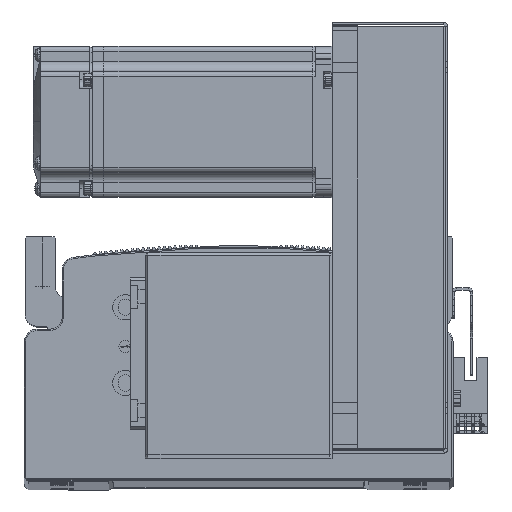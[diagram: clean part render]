
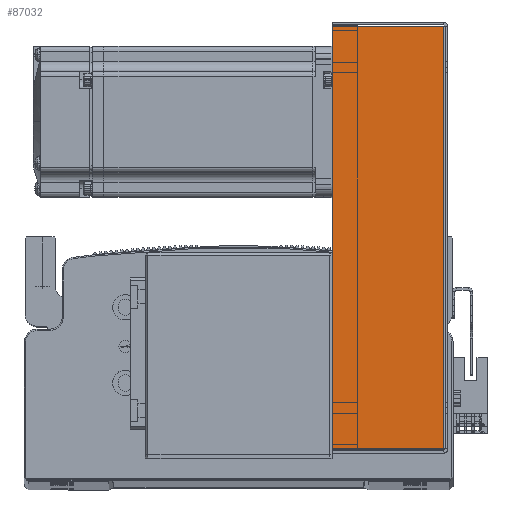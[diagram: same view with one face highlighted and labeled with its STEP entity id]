
A CAD part, top view. The second image highlights one B-rep face of the part: STEP entity #87032.
In plain terms, the highlighted planar face has unit normal (0, 0, 1).
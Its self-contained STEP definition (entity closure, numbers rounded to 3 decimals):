
#2593 = ORIENTED_EDGE ( 'NONE', *, *, #51903, .F. ) ;
#2616 = ORIENTED_EDGE ( 'NONE', *, *, #51899, .T. ) ;
#2711 = ORIENTED_EDGE ( 'NONE', *, *, #51859, .F. ) ;
#2730 = ORIENTED_EDGE ( 'NONE', *, *, #51866, .T. ) ;
#6277 = FACE_OUTER_BOUND ( 'NONE', #50947, .T. ) ;
#8840 = VERTEX_POINT ( 'NONE', #68489 ) ;
#16204 = DIRECTION ( 'NONE',  ( -1., 0., 0. ) ) ;
#16205 = PLANE ( 'NONE',  #31159 ) ;
#16224 = DIRECTION ( 'NONE',  ( 0., 0., -1. ) ) ;
#16239 = CARTESIAN_POINT ( 'NONE',  ( 0., 0., 40.5 ) ) ;
#26542 = VERTEX_POINT ( 'NONE', #64577 ) ;
#26774 = VECTOR ( 'NONE', #61748, 1000. ) ;
#26790 = LINE ( 'NONE', #61797, #26793 ) ;
#26793 = VECTOR ( 'NONE', #61807, 1000. ) ;
#26809 = LINE ( 'NONE', #61781, #26774 ) ;
#26850 = VECTOR ( 'NONE', #61896, 1000. ) ;
#26860 = LINE ( 'NONE', #61861, #26850 ) ;
#26863 = LINE ( 'NONE', #61911, #26884 ) ;
#26884 = VECTOR ( 'NONE', #61893, 1000. ) ;
#29857 = CARTESIAN_POINT ( 'NONE',  ( 83.793, 45., 40.5 ) ) ;
#29898 = CARTESIAN_POINT ( 'NONE',  ( -83.793, 45., 40.5 ) ) ;
#31159 = AXIS2_PLACEMENT_3D ( 'NONE', #16239, #16224, #16204 ) ;
#50947 = EDGE_LOOP ( 'NONE', ( #2711, #2730, #2616, #2593 ) ) ;
#51859 = EDGE_CURVE ( 'NONE', #26542, #8840, #26809, .T. ) ;
#51866 = EDGE_CURVE ( 'NONE', #26542, #54718, #26790, .T. ) ;
#51899 = EDGE_CURVE ( 'NONE', #54718, #54725, #26860, .T. ) ;
#51903 = EDGE_CURVE ( 'NONE', #8840, #54725, #26863, .T. ) ;
#54718 = VERTEX_POINT ( 'NONE', #29857 ) ;
#54725 = VERTEX_POINT ( 'NONE', #29898 ) ;
#61748 = DIRECTION ( 'NONE',  ( -1., 0., 0. ) ) ;
#61781 = CARTESIAN_POINT ( 'NONE',  ( 0., 0.737, 40.5 ) ) ;
#61797 = CARTESIAN_POINT ( 'NONE',  ( 83.793, 0., 40.5 ) ) ;
#61807 = DIRECTION ( 'NONE',  ( 0., 1., 0. ) ) ;
#61861 = CARTESIAN_POINT ( 'NONE',  ( -84.5, 45., 40.5 ) ) ;
#61893 = DIRECTION ( 'NONE',  ( 0., 1., 0. ) ) ;
#61896 = DIRECTION ( 'NONE',  ( -1., 0., 0. ) ) ;
#61911 = CARTESIAN_POINT ( 'NONE',  ( -83.793, 0., 40.5 ) ) ;
#64577 = CARTESIAN_POINT ( 'NONE',  ( 83.793, 0.737, 40.5 ) ) ;
#68489 = CARTESIAN_POINT ( 'NONE',  ( -83.793, 0.737, 40.5 ) ) ;
#87032 = ADVANCED_FACE ( 'NONE', ( #6277 ), #16205, .F. ) ;
